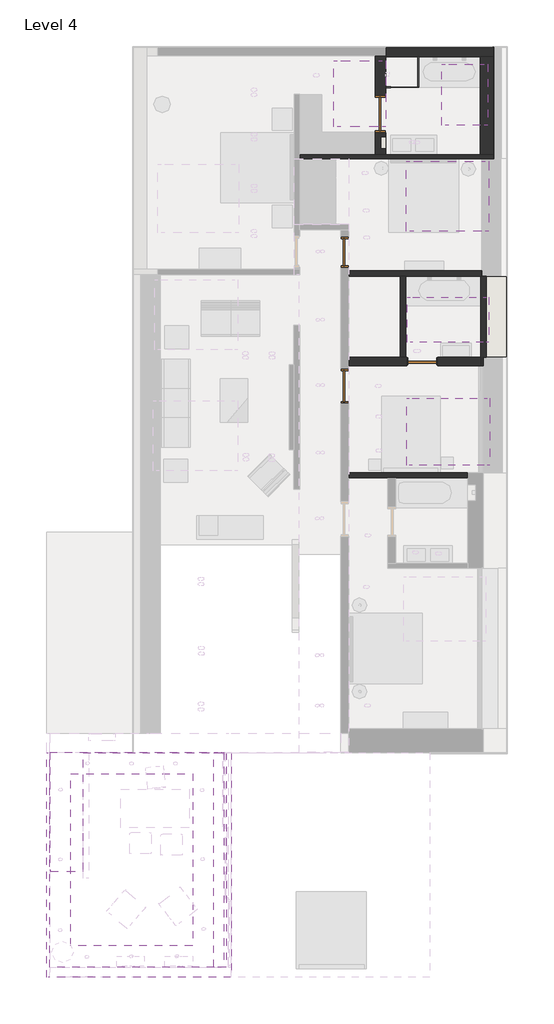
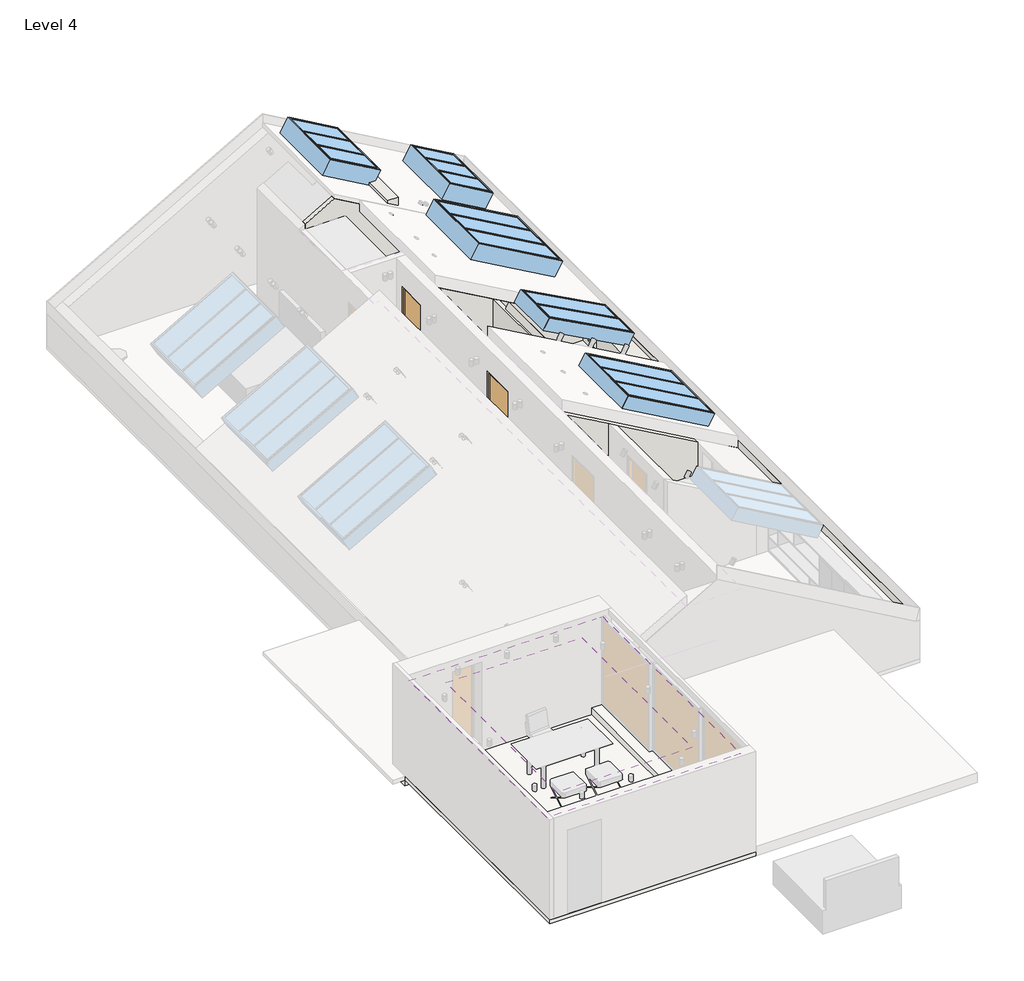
# One storey, part 2 of 5: 12 walls, 5 doors, 5 windows, 3 coverings, 2 plates, 2 slabs.
"""IFC4 building model written with IfcOpenShell, lengths in millimetres."""

from ifc_helpers import new_model, si_unit, point, frame, frame_2d, origin, place, context, project, spatial, polyline, circle_curve, trimmed, segment, composite_curve, outline, extrude, faceted_brep, transform, mapped, element, save
from ifc_brep_helpers import plane_surface, revolved_surface, advanced_brep
from components import door_02_type_3_db1270f6, door_02_type_4_94f705d0, door_03_type_1_889ccfd0, door_05_type_1_5e9864d1, door_curtain_01_door_curtain_01_92228c6f, system_panel_glazed_3_1aa751b1, system_panel_glazed_3_bbe2ff3f, window_02_standard_79e32c66, window_02_standard_d52dc3cf, window_02_standard_9c25f07f, window_02_standard_8aaaa128, window_03_standard_ac859b6b

model = new_model("IFC4")

# Units and contexts
model_context = context("Model", 3, world=origin())
ifc_project = project(units=[si_unit("LENGTHUNIT", "METRE", prefix="MILLI")], contexts=[model_context])

# Site, building, storey
site = spatial("IfcSite", under=ifc_project)
building = spatial("IfcBuilding", under=site)
storey = spatial("IfcBuildingStorey", under=building, Name="Level 4", Elevation=8080.0)

# Coverings
placement = place(None, origin())
element("IfcCovering", 1, ObjectType="Ceiling", at=placement, inside=storey, context=model_context, shape_type="SweptSolid", body=[
    extrude(outline(polyline([(-7206.3974698, 4235.5198069), (-3826.3974698, 4235.5198069), (-3826.3974698, -534.4112752), (-7206.3974698, -534.4112752), (-7206.3974698, 4235.5198069)])), frame((0.0, 0.0, 12040.0), z_axis=(0.0, 0.0, 1.0), x_axis=(1.0, 0.0, 0.0)), (0.0, 0.0, 1.0), 50.0),
])
element("IfcCovering", 2, ObjectType="Ceiling 2", at=placement, inside=storey, context=model_context, shape_type="AdvancedBrep", body=[
    advanced_brep(
    [(-7786.3974698, -1134.4112752, 12090.0), (-2966.3974698, -1134.4112752, 12090.0), (-2966.3974698, 4825.5198069, 12090.0), (-7786.3974698, 4825.5198069, 12090.0), (-7206.3974698, -534.4112752, 12090.0), (-7206.3974698, 4235.5198069, 12090.0), (-3826.3974698, 4235.5198069, 12090.0), (-3826.3974698, -534.4112752, 12090.0), (-3566.3974698, -74.4112752, 12090.0), (-3466.3974698, -74.4112752, 12090.0), (-3596.3974698, 1865.5887248, 12090.0), (-3496.3974698, 1865.5887248, 12090.0), (-3611.3974698, 3780.5887248, 12090.0), (-3511.3974698, 3780.5887248, 12090.0), (-4351.3974698, 4520.5887248, 12090.0), (-4251.3974698, 4520.5887248, 12090.0), (-5571.3974698, 4520.5887248, 12090.0), (-5471.3974698, 4520.5887248, 12090.0), (-6791.3974698, 4525.5887248, 12090.0), (-6691.3974698, 4525.5887248, 12090.0), (-7542.2776996, 3793.8700804, 12090.0), (-7442.2776996, 3793.8700804, 12090.0), (-7548.3673914, 1856.0640807, 12090.0), (-7448.3673914, 1856.0640807, 12090.0), (-7554.6725061, -107.9147133, 12090.0), (-7454.6725061, -107.9147133, 12090.0), (-6811.3974698, -851.4112752, 12090.0), (-6711.3974698, -851.4112752, 12090.0), (-5574.7222871, -834.6027258, 12090.0), (-5474.7222871, -834.6027258, 12090.0), (-4313.3777426, -832.4147053, 12090.0), (-4213.3777426, -832.4147053, 12090.0), (-2966.3974698, 4825.5198069, 11940.0), (-2966.3974698, -1134.4112752, 11940.0), (-3030.5434458, -1134.4112752, 11940.0), (-3030.5434458, 4825.5198069, 11940.0), (-7786.3974698, -1134.4112752, 11940.0), (-7786.3974698, 4825.5198069, 11940.0), (-3218.8446599, 4825.5198069, 11940.0), (-3218.8446599, -1134.4112752, 11940.0), (-7206.3974698, 4235.5198069, 11940.0), (-7206.3974698, -534.4112752, 11940.0), (-3826.3974698, -534.4112752, 11940.0), (-3826.3974698, 4235.5198069, 11940.0), (-3566.3974698, -74.4112752, 11940.0), (-3466.3974698, -74.4112752, 11940.0), (-3596.3974698, 1865.5887248, 11940.0), (-3496.3974698, 1865.5887248, 11940.0), (-3611.3974698, 3780.5887248, 11940.0), (-3511.3974698, 3780.5887248, 11940.0), (-4351.3974698, 4520.5887248, 11940.0), (-4251.3974698, 4520.5887248, 11940.0), (-5571.3974698, 4520.5887248, 11940.0), (-5471.3974698, 4520.5887248, 11940.0), (-6791.3974698, 4525.5887248, 11940.0), (-6691.3974698, 4525.5887248, 11940.0), (-7542.2776996, 3793.8700804, 11940.0), (-7442.2776996, 3793.8700804, 11940.0), (-7548.3673914, 1856.0640807, 11940.0), (-7448.3673914, 1856.0640807, 11940.0), (-7554.6725061, -107.9147133, 11940.0), (-7454.6725061, -107.9147133, 11940.0), (-6811.3974698, -851.4112752, 11940.0), (-6711.3974698, -851.4112752, 11940.0), (-5574.7222871, -834.6027258, 11940.0), (-5474.7222871, -834.6027258, 11940.0), (-4313.3777426, -832.4147053, 11940.0), (-4213.3777426, -832.4147053, 11940.0), (-3218.8446599, -1134.4112752, 12040.0), (-3030.5434458, -1134.4112752, 12040.0), (-3030.5434458, 4825.5198069, 12040.0), (-3218.8446599, 4825.5198069, 12040.0)],
    [
        (0, 1),
        (1, 2),
        (2, 3),
        (3, 0),
        (4, 5),
        (5, 6),
        (6, 7),
        (7, 4),
        (8, 9, circle_curve(frame((-3516.3974698, -74.4112752, 12090.0), z_axis=(0.0, 0.0, -1.0), x_axis=(1.0, 0.0, 0.0)), 50.0)),
        (9, 8, circle_curve(frame((-3516.3974698, -74.4112752, 12090.0), z_axis=(0.0, 0.0, -1.0), x_axis=(1.0, 0.0, 0.0)), 50.0)),
        (10, 11, circle_curve(frame((-3546.3974698, 1865.5887248, 12090.0), z_axis=(0.0, 0.0, -1.0), x_axis=(1.0, 0.0, 0.0)), 50.0)),
        (11, 10, circle_curve(frame((-3546.3974698, 1865.5887248, 12090.0), z_axis=(0.0, 0.0, -1.0), x_axis=(1.0, 0.0, 0.0)), 50.0)),
        (12, 13, circle_curve(frame((-3561.3974698, 3780.5887248, 12090.0), z_axis=(0.0, 0.0, -1.0), x_axis=(1.0, 0.0, 0.0)), 50.0)),
        (13, 12, circle_curve(frame((-3561.3974698, 3780.5887248, 12090.0), z_axis=(0.0, 0.0, -1.0), x_axis=(1.0, 0.0, 0.0)), 50.0)),
        (14, 15, circle_curve(frame((-4301.3974698, 4520.5887248, 12090.0), z_axis=(0.0, 0.0, -1.0), x_axis=(1.0, 0.0, 0.0)), 50.0)),
        (15, 14, circle_curve(frame((-4301.3974698, 4520.5887248, 12090.0), z_axis=(0.0, 0.0, -1.0), x_axis=(1.0, 0.0, 0.0)), 50.0)),
        (16, 17, circle_curve(frame((-5521.3974698, 4520.5887248, 12090.0), z_axis=(0.0, 0.0, -1.0), x_axis=(1.0, 0.0, 0.0)), 50.0)),
        (17, 16, circle_curve(frame((-5521.3974698, 4520.5887248, 12090.0), z_axis=(0.0, 0.0, -1.0), x_axis=(1.0, 0.0, 0.0)), 50.0)),
        (18, 19, circle_curve(frame((-6741.3974698, 4525.5887248, 12090.0), z_axis=(0.0, 0.0, -1.0), x_axis=(1.0, 0.0, 0.0)), 50.0)),
        (19, 18, circle_curve(frame((-6741.3974698, 4525.5887248, 12090.0), z_axis=(0.0, 0.0, -1.0), x_axis=(1.0, 0.0, 0.0)), 50.0)),
        (20, 21, circle_curve(frame((-7492.2776996, 3793.8700804, 12090.0), z_axis=(0.0, 0.0, -1.0), x_axis=(1.0, 0.0, 0.0)), 50.0)),
        (21, 20, circle_curve(frame((-7492.2776996, 3793.8700804, 12090.0), z_axis=(0.0, 0.0, -1.0), x_axis=(1.0, 0.0, 0.0)), 50.0)),
        (22, 23, circle_curve(frame((-7498.3673914, 1856.0640807, 12090.0), z_axis=(0.0, 0.0, -1.0), x_axis=(1.0, 0.0, 0.0)), 50.0)),
        (23, 22, circle_curve(frame((-7498.3673914, 1856.0640807, 12090.0), z_axis=(0.0, 0.0, -1.0), x_axis=(1.0, 0.0, 0.0)), 50.0)),
        (24, 25, circle_curve(frame((-7504.6725061, -107.9147133, 12090.0), z_axis=(0.0, 0.0, -1.0), x_axis=(1.0, 0.0, 0.0)), 50.0)),
        (25, 24, circle_curve(frame((-7504.6725061, -107.9147133, 12090.0), z_axis=(0.0, 0.0, -1.0), x_axis=(1.0, 0.0, 0.0)), 50.0)),
        (26, 27, circle_curve(frame((-6761.3974698, -851.4112752, 12090.0), z_axis=(0.0, 0.0, -1.0), x_axis=(1.0, 0.0, 0.0)), 50.0)),
        (27, 26, circle_curve(frame((-6761.3974698, -851.4112752, 12090.0), z_axis=(0.0, 0.0, -1.0), x_axis=(1.0, 0.0, 0.0)), 50.0)),
        (28, 29, circle_curve(frame((-5524.7222871, -834.6027258, 12090.0), z_axis=(0.0, 0.0, -1.0), x_axis=(1.0, 0.0, 0.0)), 50.0)),
        (29, 28, circle_curve(frame((-5524.7222871, -834.6027258, 12090.0), z_axis=(0.0, 0.0, -1.0), x_axis=(1.0, 0.0, 0.0)), 50.0)),
        (30, 31, circle_curve(frame((-4263.3777426, -832.4147053, 12090.0), z_axis=(0.0, 0.0, -1.0), x_axis=(1.0, 0.0, 0.0)), 50.0)),
        (31, 30, circle_curve(frame((-4263.3777426, -832.4147053, 12090.0), z_axis=(0.0, 0.0, -1.0), x_axis=(1.0, 0.0, 0.0)), 50.0)),
        (32, 33),
        (33, 34),
        (34, 35),
        (35, 32),
        (36, 37),
        (37, 38),
        (38, 39),
        (39, 36),
        (40, 41),
        (41, 42),
        (42, 43),
        (43, 40),
        (44, 45, circle_curve(frame((-3516.3974698, -74.4112752, 11940.0), z_axis=(0.0, 0.0, 1.0), x_axis=(1.0, 0.0, 0.0)), 50.0)),
        (45, 44, circle_curve(frame((-3516.3974698, -74.4112752, 11940.0), z_axis=(0.0, 0.0, 1.0), x_axis=(1.0, 0.0, 0.0)), 50.0)),
        (46, 47, circle_curve(frame((-3546.3974698, 1865.5887248, 11940.0), z_axis=(0.0, 0.0, 1.0), x_axis=(1.0, 0.0, 0.0)), 50.0)),
        (47, 46, circle_curve(frame((-3546.3974698, 1865.5887248, 11940.0), z_axis=(0.0, 0.0, 1.0), x_axis=(1.0, 0.0, 0.0)), 50.0)),
        (48, 49, circle_curve(frame((-3561.3974698, 3780.5887248, 11940.0), z_axis=(0.0, 0.0, 1.0), x_axis=(1.0, 0.0, 0.0)), 50.0)),
        (49, 48, circle_curve(frame((-3561.3974698, 3780.5887248, 11940.0), z_axis=(0.0, 0.0, 1.0), x_axis=(1.0, 0.0, 0.0)), 50.0)),
        (50, 51, circle_curve(frame((-4301.3974698, 4520.5887248, 11940.0), z_axis=(0.0, 0.0, 1.0), x_axis=(1.0, 0.0, 0.0)), 50.0)),
        (51, 50, circle_curve(frame((-4301.3974698, 4520.5887248, 11940.0), z_axis=(0.0, 0.0, 1.0), x_axis=(1.0, 0.0, 0.0)), 50.0)),
        (52, 53, circle_curve(frame((-5521.3974698, 4520.5887248, 11940.0), z_axis=(0.0, 0.0, 1.0), x_axis=(1.0, 0.0, 0.0)), 50.0)),
        (53, 52, circle_curve(frame((-5521.3974698, 4520.5887248, 11940.0), z_axis=(0.0, 0.0, 1.0), x_axis=(1.0, 0.0, 0.0)), 50.0)),
        (54, 55, circle_curve(frame((-6741.3974698, 4525.5887248, 11940.0), z_axis=(0.0, 0.0, 1.0), x_axis=(1.0, 0.0, 0.0)), 50.0)),
        (55, 54, circle_curve(frame((-6741.3974698, 4525.5887248, 11940.0), z_axis=(0.0, 0.0, 1.0), x_axis=(1.0, 0.0, 0.0)), 50.0)),
        (56, 57, circle_curve(frame((-7492.2776996, 3793.8700804, 11940.0), z_axis=(0.0, 0.0, 1.0), x_axis=(1.0, 0.0, 0.0)), 50.0)),
        (57, 56, circle_curve(frame((-7492.2776996, 3793.8700804, 11940.0), z_axis=(0.0, 0.0, 1.0), x_axis=(1.0, 0.0, 0.0)), 50.0)),
        (58, 59, circle_curve(frame((-7498.3673914, 1856.0640807, 11940.0), z_axis=(0.0, 0.0, 1.0), x_axis=(1.0, 0.0, 0.0)), 50.0)),
        (59, 58, circle_curve(frame((-7498.3673914, 1856.0640807, 11940.0), z_axis=(0.0, 0.0, 1.0), x_axis=(1.0, 0.0, 0.0)), 50.0)),
        (60, 61, circle_curve(frame((-7504.6725061, -107.9147133, 11940.0), z_axis=(0.0, 0.0, 1.0), x_axis=(1.0, 0.0, 0.0)), 50.0)),
        (61, 60, circle_curve(frame((-7504.6725061, -107.9147133, 11940.0), z_axis=(0.0, 0.0, 1.0), x_axis=(1.0, 0.0, 0.0)), 50.0)),
        (62, 63, circle_curve(frame((-6761.3974698, -851.4112752, 11940.0), z_axis=(0.0, 0.0, 1.0), x_axis=(1.0, 0.0, 0.0)), 50.0)),
        (63, 62, circle_curve(frame((-6761.3974698, -851.4112752, 11940.0), z_axis=(0.0, 0.0, 1.0), x_axis=(1.0, 0.0, 0.0)), 50.0)),
        (64, 65, circle_curve(frame((-5524.7222871, -834.6027258, 11940.0), z_axis=(0.0, 0.0, 1.0), x_axis=(1.0, 0.0, 0.0)), 50.0)),
        (65, 64, circle_curve(frame((-5524.7222871, -834.6027258, 11940.0), z_axis=(0.0, 0.0, 1.0), x_axis=(1.0, 0.0, 0.0)), 50.0)),
        (66, 67, circle_curve(frame((-4263.3777426, -832.4147053, 11940.0), z_axis=(0.0, 0.0, 1.0), x_axis=(1.0, 0.0, 0.0)), 50.0)),
        (67, 66, circle_curve(frame((-4263.3777426, -832.4147053, 11940.0), z_axis=(0.0, 0.0, 1.0), x_axis=(1.0, 0.0, 0.0)), 50.0)),
        (0, 36),
        (39, 68),
        (68, 69),
        (69, 34),
        (33, 1),
        (32, 2),
        (35, 70),
        (70, 71),
        (71, 38),
        (37, 3),
        (4, 41),
        (40, 5),
        (43, 6),
        (42, 7),
        (70, 69),
        (68, 71),
        (44, 8),
        (9, 45),
        (46, 10),
        (11, 47),
        (48, 12),
        (13, 49),
        (50, 14),
        (15, 51),
        (52, 16),
        (17, 53),
        (54, 18),
        (19, 55),
        (56, 20),
        (21, 57),
        (58, 22),
        (23, 59),
        (60, 24),
        (25, 61),
        (62, 26),
        (27, 63),
        (64, 28),
        (29, 65),
        (66, 30),
        (31, 67),
    ],
    [
        plane_surface(frame((-7786.3974698, -1134.4112752, 12090.0), z_axis=(0.0, 0.0, 1.0), x_axis=(0.0, -1.0, 0.0))),
        plane_surface(frame((-7786.3974698, -1134.4112752, 11940.0), z_axis=(0.0, 0.0, -1.0), x_axis=(0.0, 1.0, 0.0))),
        plane_surface(frame((-7786.3974698, -1134.4112752, 12090.0), z_axis=(0.0, -1.0, 0.0), x_axis=(0.0, 0.0, -1.0))),
        plane_surface(frame((-2966.3974698, -1134.4112752, 12090.0), z_axis=(1.0, 0.0, 0.0), x_axis=(0.0, 0.0, -1.0))),
        plane_surface(frame((-2966.3974698, 4825.5198069, 12090.0), z_axis=(0.0, 1.0, 0.0), x_axis=(0.0, 0.0, -1.0))),
        plane_surface(frame((-7786.3974698, 4825.5198069, 12090.0), z_axis=(-1.0, 0.0, 0.0), x_axis=(0.0, 0.0, -1.0))),
        plane_surface(frame((-7206.3974698, -534.4112752, 12090.0), z_axis=(1.0, 0.0, 0.0), x_axis=(0.0, 0.0, -1.0))),
        plane_surface(frame((-7206.3974698, 4235.5198069, 12090.0), z_axis=(0.0, -1.0, 0.0), x_axis=(0.0, 0.0, -1.0))),
        plane_surface(frame((-3826.3974698, 4235.5198069, 12090.0), z_axis=(-1.0, 0.0, 0.0), x_axis=(0.0, 0.0, -1.0))),
        plane_surface(frame((-3826.3974698, -534.4112752, 12090.0), z_axis=(0.0, 1.0, 0.0), x_axis=(0.0, 0.0, -1.0))),
        plane_surface(frame((-3238.8446599, 4825.5198069, 12040.0), z_axis=(0.0, 0.0, -1.0), x_axis=(-1.0, 0.0, 0.0))),
        plane_surface(frame((-3218.8446599, 4825.5198069, 12040.0), z_axis=(1.0, 0.0, 0.0), x_axis=(0.0, 0.0, -1.0))),
        plane_surface(frame((-3030.5434458, -1134.4112752, 12040.0), z_axis=(-1.0, 0.0, 0.0), x_axis=(0.0, 0.0, -1.0))),
        revolved_surface(polyline([(-3466.3974698, -74.4112752, 12090.0), (-3466.3974698, -74.4112752, 11940.0)]), (-3516.3974698, -74.4112752, 11940.0), (0.0, 0.0, 1.0)),
        revolved_surface(polyline([(-3496.3974698, 1865.5887248, 12090.0), (-3496.3974698, 1865.5887248, 11940.0)]), (-3546.3974698, 1865.5887248, 11940.0), (0.0, 0.0, 1.0)),
        revolved_surface(polyline([(-3511.3974698, 3780.5887248, 12090.0), (-3511.3974698, 3780.5887248, 11940.0)]), (-3561.3974698, 3780.5887248, 11940.0), (0.0, 0.0, 1.0)),
        revolved_surface(polyline([(-4251.3974698, 4520.5887248, 12090.0), (-4251.3974698, 4520.5887248, 11940.0)]), (-4301.3974698, 4520.5887248, 11940.0), (0.0, 0.0, 1.0)),
        revolved_surface(polyline([(-5471.3974698, 4520.5887248, 12090.0), (-5471.3974698, 4520.5887248, 11940.0)]), (-5521.3974698, 4520.5887248, 11940.0), (0.0, 0.0, 1.0)),
        revolved_surface(polyline([(-6691.3974698, 4525.5887248, 12090.0), (-6691.3974698, 4525.5887248, 11940.0)]), (-6741.3974698, 4525.5887248, 11940.0), (0.0, 0.0, 1.0)),
        revolved_surface(polyline([(-7442.2776996, 3793.8700804, 12090.0), (-7442.2776996, 3793.8700804, 11940.0)]), (-7492.2776996, 3793.8700804, 11940.0), (0.0, 0.0, 1.0)),
        revolved_surface(polyline([(-7448.3673914, 1856.0640807, 12090.0), (-7448.3673914, 1856.0640807, 11940.0)]), (-7498.3673914, 1856.0640807, 11940.0), (0.0, 0.0, 1.0)),
        revolved_surface(polyline([(-7454.6725061, -107.9147133, 12090.0), (-7454.6725061, -107.9147133, 11940.0)]), (-7504.6725061, -107.9147133, 11940.0), (0.0, 0.0, 1.0)),
        revolved_surface(polyline([(-6711.3974698, -851.4112752, 12090.0), (-6711.3974698, -851.4112752, 11940.0)]), (-6761.3974698, -851.4112752, 11940.0), (0.0, 0.0, 1.0)),
        revolved_surface(polyline([(-5474.7222871, -834.6027258, 12090.0), (-5474.7222871, -834.6027258, 11940.0)]), (-5524.7222871, -834.6027258, 11940.0), (0.0, 0.0, 1.0)),
        revolved_surface(polyline([(-4213.3777426, -832.4147053, 12090.0), (-4213.3777426, -832.4147053, 11940.0)]), (-4263.3777426, -832.4147053, 11940.0), (0.0, 0.0, 1.0)),
    ],
    [
        (0, [[1, 2, 3, 4], [5, 6, 7, 8], [9, 10], [11, 12], [13, 14], [15, 16], [17, 18], [19, 20], [21, 22], [23, 24], [25, 26], [27, 28], [29, 30], [31, 32]]),
        (1, [[33, 34, 35, 36]]),
        (1, [[37, 38, 39, 40], [41, 42, 43, 44], [45, 46], [47, 48], [49, 50], [51, 52], [53, 54], [55, 56], [57, 58], [59, 60], [61, 62], [63, 64], [65, 66], [67, 68]]),
        (2, [[-1, 69, -40, 70, 71, 72, -34, 73]]),
        (3, [[-2, -73, -33, 74]]),
        (4, [[-3, -74, -36, 75, 76, 77, -38, 78]]),
        (5, [[-4, -78, -37, -69]]),
        (6, [[-5, 79, -41, 80]]),
        (7, [[-6, -80, -44, 81]]),
        (8, [[-7, -81, -43, 82]]),
        (9, [[-8, -82, -42, -79]]),
        (10, [[83, -71, 84, -76]]),
        (11, [[-84, -70, -39, -77]]),
        (12, [[-83, -75, -35, -72]]),
        (13, [[-45, 85, -10, 86]]),
        (13, [[-46, -86, -9, -85]]),
        (14, [[-47, 87, -12, 88]]),
        (14, [[-48, -88, -11, -87]]),
        (15, [[-49, 89, -14, 90]]),
        (15, [[-50, -90, -13, -89]]),
        (16, [[-51, 91, -16, 92]]),
        (16, [[-52, -92, -15, -91]]),
        (17, [[-53, 93, -18, 94]]),
        (17, [[-54, -94, -17, -93]]),
        (18, [[-55, 95, -20, 96]]),
        (18, [[-56, -96, -19, -95]]),
        (19, [[-57, 97, -22, 98]]),
        (19, [[-58, -98, -21, -97]]),
        (20, [[-59, 99, -24, 100]]),
        (20, [[-60, -100, -23, -99]]),
        (21, [[-61, 101, -26, 102]]),
        (21, [[-62, -102, -25, -101]]),
        (22, [[-63, 103, -28, 104]]),
        (22, [[-64, -104, -27, -103]]),
        (23, [[-65, 105, -30, 106]]),
        (23, [[-66, -106, -29, -105]]),
        (24, [[-67, 107, -32, 108]]),
        (24, [[-68, -108, -31, -107]]),
    ],
),
])
element("IfcCovering", 3, ObjectType="Ceiling 2", at=placement, inside=storey, context=model_context, shape_type="SweptSolid", body=[
    extrude(outline(polyline([(-7500.5019919, 10588.8264883), (-5469.2035042, 10588.8264883), (-5469.2035042, 5365.5198069), (-7580.5019919, 5365.5198069), (-7580.5019919, 8595.5198069), (-7500.5019919, 8595.5198069), (-7500.5019919, 10588.8264883)]), holes=[composite_curve([segment(trimmed(circle_curve(frame_2d((-6840.5019919, 9595.5198069)), 50.0), [point((-6890.5019919, 9595.5198069))], [point((-6790.5019919, 9595.5198069))], True, "CARTESIAN"), True, "CONTINUOUS"), segment(trimmed(circle_curve(frame_2d((-6840.5019919, 9595.5198069)), 50.0), [point((-6790.5019919, 9595.5198069))], [point((-6890.5019919, 9595.5198069))], True, "CARTESIAN"), True, "CONTINUOUS")], self_intersect=False), composite_curve([segment(trimmed(circle_curve(frame_2d((-6700.5019919, 9595.5198069)), 50.0), [point((-6750.5019919, 9595.5198069))], [point((-6650.5019919, 9595.5198069))], True, "CARTESIAN"), True, "CONTINUOUS"), segment(trimmed(circle_curve(frame_2d((-6700.5019919, 9595.5198069)), 50.0), [point((-6650.5019919, 9595.5198069))], [point((-6750.5019919, 9595.5198069))], True, "CARTESIAN"), True, "CONTINUOUS")], self_intersect=False), composite_curve([segment(trimmed(circle_curve(frame_2d((-6860.5019919, 7665.5198069)), 50.0), [point((-6910.5019919, 7665.5198069))], [point((-6810.5019919, 7665.5198069))], True, "CARTESIAN"), True, "CONTINUOUS"), segment(trimmed(circle_curve(frame_2d((-6860.5019919, 7665.5198069)), 50.0), [point((-6810.5019919, 7665.5198069))], [point((-6910.5019919, 7665.5198069))], True, "CARTESIAN"), True, "CONTINUOUS")], self_intersect=False), composite_curve([segment(trimmed(circle_curve(frame_2d((-6720.5019919, 7665.5198069)), 50.0), [point((-6770.5019919, 7665.5198069))], [point((-6670.5019919, 7665.5198069))], True, "CARTESIAN"), True, "CONTINUOUS"), segment(trimmed(circle_curve(frame_2d((-6720.5019919, 7665.5198069)), 50.0), [point((-6670.5019919, 7665.5198069))], [point((-6770.5019919, 7665.5198069))], True, "CARTESIAN"), True, "CONTINUOUS")], self_intersect=False), composite_curve([segment(trimmed(circle_curve(frame_2d((-6948.4263983, 5947.8221885)), 50.0), [point((-6998.4263983, 5947.8221885))], [point((-6898.4263983, 5947.8221885))], True, "CARTESIAN"), True, "CONTINUOUS"), segment(trimmed(circle_curve(frame_2d((-6948.4263983, 5947.8221885)), 50.0), [point((-6898.4263983, 5947.8221885))], [point((-6998.4263983, 5947.8221885))], True, "CARTESIAN"), True, "CONTINUOUS")], self_intersect=False), composite_curve([segment(trimmed(circle_curve(frame_2d((-6808.4263983, 5947.8221885)), 50.0), [point((-6858.4263983, 5947.8221885))], [point((-6758.4263983, 5947.8221885))], True, "CARTESIAN"), True, "CONTINUOUS"), segment(trimmed(circle_curve(frame_2d((-6808.4263983, 5947.8221885)), 50.0), [point((-6758.4263983, 5947.8221885))], [point((-6858.4263983, 5947.8221885))], True, "CARTESIAN"), True, "CONTINUOUS")], self_intersect=False)]), frame((0.0, 0.0, 8765.0), z_axis=(0.0, 0.0, 1.0), x_axis=(1.0, 0.0, 0.0)), (0.0, 0.0, 1.0), 150.0),
])

# Doors
door_02_type_3_shape = door_02_type_3_db1270f6(model_context)
element("IfcDoor", 4, ObjectType="Door_02 : Type 3", at=placement, inside=storey, context=model_context, shape_type="MappedRepresentation", body=[
    mapped(door_02_type_3_shape, transform((396.4168364, 18718.0978406, 8080.0), x_axis=(0.0, -1.0, 0.0), y_axis=(1.0, 0.0, 0.0), z_axis=(0.0, 0.0, 1.0))),
])
door_02_type_4_shape = door_02_type_4_94f705d0(model_context)
element("IfcDoor", 5, ObjectType="Door_02 : Type 4", at=placement, inside=storey, context=model_context, shape_type="MappedRepresentation", body=[
    mapped(door_02_type_4_shape, transform((396.4168364, 14998.0978406, 8080.0), x_axis=(0.0, 1.0, 0.0), y_axis=(-1.0, 0.0, 0.0), z_axis=(0.0, 0.0, 1.0))),
])
door_03_type_1_shape = door_03_type_1_889ccfd0(model_context)
element("IfcDoor", 6, ObjectType="Door_03 : Type 1", at=placement, inside=storey, context=model_context, shape_type="MappedRepresentation", body=[
    mapped(door_03_type_1_shape, transform((2552.3010582, 15683.0978406, 8080.0), x_axis=(-1.0, 0.0, 0.0), y_axis=(0.0, -1.0, 0.0), z_axis=(0.0, 0.0, 1.0))),
])
door_05_type_1_shape = door_05_type_1_5e9864d1(model_context)
element("IfcDoor", 7, ObjectType="Door_05 : Type 1", at=placement, inside=storey, context=model_context, shape_type="MappedRepresentation", body=[
    mapped(door_05_type_1_shape, transform((1392.3010582, 22557.5059342, 8080.0), x_axis=(0.0, 1.0, 0.0), y_axis=(-1.0, 0.0, 0.0), z_axis=(0.0, 0.0, 1.0))),
])
door_curtain_01_door_curtain_01_shape = door_curtain_01_door_curtain_01_92228c6f(model_context)
element("IfcDoor", 8, ObjectType="Door_Curtain_01 : Door_Curtain_01", at=placement, inside=storey, context=model_context, shape_type="MappedRepresentation", body=[
    mapped(door_curtain_01_door_curtain_01_shape, transform((2055.6140452, 23297.5059342, 8080.0), x_axis=(-1.0, 0.0, 0.0), y_axis=(0.0, -1.0, 0.0), z_axis=(0.0, 0.0, 1.0))),
])

# Plates
system_panel_glazed_3_shape = system_panel_glazed_3_1aa751b1(model_context)
element("IfcPlate", 9, ObjectType="System Panel : Glazed 3", at=placement, inside=storey, context=model_context, shape_type="MappedRepresentation", body=[
    mapped(system_panel_glazed_3_shape, transform((2437.4890452, 23724.0518874, 8690.4670848), x_axis=(0.0, 1.0, 0.0), y_axis=(-1.0, 0.0, 0.0), z_axis=(0.0, 0.0, 1.0))),
])
system_panel_glazed_3_2_shape = system_panel_glazed_3_bbe2ff3f(model_context)
element("IfcPlate", 10, ObjectType="System Panel : Glazed 3", at=placement, inside=storey, context=model_context, shape_type="MappedRepresentation", body=[
    mapped(system_panel_glazed_3_2_shape, transform((1603.0200517, 23297.5059342, 8080.0), x_axis=(-1.0, 0.0, 0.0), y_axis=(0.0, -1.0, 0.0), z_axis=(0.0, 0.0, 1.0))),
])

# Slabs
element("IfcSlab", 11, ObjectType="Floor_100", at=placement, inside=storey, context=model_context, shape_type="Brep", body=[
    faceted_brep([(-7880.3974698, -1412.4112752, 9350.0), (-7880.3974698, 4825.5198069, 9350.0), (-7786.3974698, 4825.5198069, 9350.0), (-7786.3974698, 1565.5887248, 9350.0), (-7780.5019919, 1565.5887248, 9350.0), (-7780.5019919, 1530.5887248, 9350.0), (-6858.0019919, 1530.5887248, 9350.0), (-6858.0019919, 4825.5198069, 9350.0), (-2751.3974698, 4825.5198069, 9350.0), (-2751.3974698, -1412.4112752, 9350.0), (-7880.3974698, 4825.5198069, 9450.0), (-7880.3974698, -1412.4112752, 9450.0), (-7786.3974698, -1412.4112752, 9450.0), (-2751.3974698, -1412.4112752, 9450.0), (-2751.3974698, 4825.5198069, 9450.0), (-6858.0019919, 4825.5198069, 9450.0), (-6858.0019919, 1565.5887248, 9450.0), (-6858.0019919, 1530.5887248, 9450.0), (-7780.5019919, 1530.5887248, 9450.0), (-7780.5019919, 1565.5887248, 9450.0), (-7786.3974698, 1565.5887248, 9450.0), (-7786.3974698, 4825.5198069, 9450.0)], [[[0, 1, 2, 3, 4, 5, 6, 7, 8, 9]], [[10, 11, 12, 13, 14, 15, 16, 17, 18, 19, 20, 21]], [[1, 0, 11, 10]], [[2, 1, 10, 21]], [[9, 8, 14, 13]], [[0, 9, 13, 12, 11]], [[3, 2, 21, 20]], [[3, 20, 19, 4]], [[6, 17, 16, 15, 7]], [[8, 7, 15, 14]], [[18, 5, 4, 19]], [[17, 6, 5, 18]]]),
])
element("IfcSlab", 12, ObjectType="Floor_176", at=placement, inside=storey, context=model_context, shape_type="SweptSolid", body=[
    extrude(outline(polyline([(-2891.3974698, 4825.5198069), (-2891.3974698, -1134.4112752), (-3239.3881435, -1134.4112752), (-3239.3881435, 4825.5198069), (-2891.3974698, 4825.5198069)])), frame((0.0, 0.0, 9450.4391419), z_axis=(0.0, 0.0, 1.0), x_axis=(1.0, 0.0, 0.0)), (0.0, 0.0, 1.0), 176.0),
])

# Walls
element("IfcWall", 13, ObjectType="Generic - Ext 19mm", at=placement, inside=storey, context=model_context, shape_type="Brep", body=[
    faceted_brep([(4916.3010582, 4817.0467998, 8080.0), (4916.3010582, 24429.5978406, 8080.0), (4916.3010582, 24429.5978406, 9101.8073213), (4916.3010582, 4817.0467998, 9101.8073213), (4897.3010582, 4817.0467998, 8080.0), (4897.3010582, 4817.0467998, 9101.8073213), (4897.3010582, 24410.5978406, 9101.8073213), (4897.3010582, 24429.5978406, 9101.8073213), (4897.3010582, 24429.5978406, 8080.0), (4897.3010582, 24410.5978406, 8080.0)], [[[0, 1, 2, 3]], [[4, 5, 6, 7, 8, 9]], [[1, 0, 4, 9, 8]], [[3, 2, 7, 6, 5]], [[0, 3, 5, 4]], [[2, 1, 8, 7]]]),
])
element("IfcWall", 14, ObjectType="Generic - Ext 223mm", at=placement, inside=storey, context=model_context, shape_type="Brep", body=[
    faceted_brep([(4674.3010582, 15570.5978406, 8080.0), (4674.3010582, 12600.5978406, 8080.0), (4674.3010582, 12600.5978406, 9038.4953268), (4674.3010582, 15570.5978406, 9038.4953268), (4897.3010582, 15570.5978406, 8080.0), (4897.3010582, 15570.5978406, 8911.8136953), (4897.3010582, 12600.5978406, 8911.8136953), (4897.3010582, 12600.5978406, 8906.8136953), (4897.3010582, 12600.5978406, 8080.0)], [[[0, 1, 2, 3]], [[4, 5, 6, 7, 8]], [[1, 0, 4, 8]], [[2, 1, 8, 7, 6]], [[0, 3, 5, 4]], [[3, 2, 6, 5]]]),
])
element("IfcWall", 15, ObjectType="Generic - Ext 260mm", at=placement, inside=storey, context=model_context, shape_type="Brep", body=[
    faceted_brep([(1532.3010582, 24150.5978406, 8080.0), (4157.3010582, 24150.5978406, 8080.0), (4897.3010582, 24150.5978406, 8080.0), (4897.3010582, 24150.5978406, 9077.091784), (4157.3010582, 24150.5978406, 9500.89378), (1532.3010582, 24150.5978406, 11004.2454548), (1532.3010582, 24410.5978406, 8080.0), (1532.3010582, 24410.5978406, 11004.2454548), (4897.3010582, 24410.5978406, 9077.091784), (4897.3010582, 24410.5978406, 8080.0), (1532.3010582, 24170.5978406, 8080.0), (1532.3010582, 24170.5978406, 11004.2454548)], [[[0, 1, 2, 3, 4, 5]], [[6, 7, 8, 9]], [[3, 2, 9, 8]], [[2, 1, 0, 10, 6, 9]], [[0, 5, 11, 7, 6, 10]], [[5, 4, 3, 8, 7, 11]]]),
])
element("IfcWall", 16, ObjectType="Generic - Ext 260mm", at=placement, inside=storey, context=model_context, shape_type="Brep", body=[
    faceted_brep([(4637.3010582, 21310.5978406, 8080.0), (4637.3010582, 18200.5978406, 8080.0), (4637.3010582, 18050.5978406, 8080.0), (4637.3010582, 18050.5978406, 9034.5142522), (4637.3010582, 18200.5978406, 9034.5142522), (4637.3010582, 21310.5978406, 9034.5142522), (4897.3010582, 21310.5978406, 8080.0), (4897.3010582, 21310.5978406, 8886.8136953), (4897.3010582, 18050.5978406, 8886.8136953), (4897.3010582, 18050.5978406, 8080.0)], [[[0, 1, 2, 3, 4, 5]], [[6, 7, 8, 9]], [[2, 1, 0, 6, 9]], [[3, 2, 9, 8]], [[5, 4, 3, 8, 7]], [[0, 5, 7, 6]]]),
])
element("IfcWall", 17, ObjectType="Generic - Ext 280mm", at=placement, inside=storey, context=model_context, shape_type="Brep", body=[
    faceted_brep([(1252.3010582, 21420.5978406, 11344.8131023), (1252.3010582, 24170.5978406, 11344.8131023), (1252.3010582, 24170.5978406, 8080.0), (1252.3010582, 23077.5059342, 8080.0), (1252.3010582, 23077.5059342, 10460.0), (1252.3010582, 22037.5059342, 10460.0), (1252.3010582, 22037.5059342, 8080.0), (1252.3010582, 21420.5978406, 8080.0), (1532.3010582, 24170.5978406, 11344.8131023), (1532.3010582, 21420.5978406, 11344.8131023), (1532.3010582, 21420.5978406, 8080.0), (1532.3010582, 22037.5059342, 8080.0), (1532.3010582, 22037.5059342, 10460.0), (1532.3010582, 23077.5059342, 10460.0), (1532.3010582, 23077.5059342, 8080.0), (1532.3010582, 24170.5978406, 8080.0), (1532.3010582, 24170.5978406, 11004.2454548), (1532.3010582, 21920.5978406, 9931.2510975), (1532.3010582, 21920.5978406, 9591.2510975), (1532.3010582, 21591.1509064, 9591.2510975), (1532.3010582, 21591.1509064, 9931.2510975), (1532.3010582, 21920.5978406, 9466.2510975), (1532.3010582, 21920.5978406, 9126.2510975), (1532.3010582, 21591.1509064, 9126.2510975), (1532.3010582, 21591.1509064, 9466.2510975), (1401.1523625, 21920.5978406, 9931.2510975), (1401.1523625, 21591.1509064, 9931.2510975), (1401.1523625, 21591.1509064, 9591.2510975), (1401.1523625, 21920.5978406, 9591.2510975), (1401.1523625, 21920.5978406, 9466.2510975), (1401.1523625, 21591.1509064, 9466.2510975), (1401.1523625, 21591.1509064, 9126.2510975), (1401.1523625, 21920.5978406, 9126.2510975)], [[[0, 1, 2, 3, 4, 5, 6, 7]], [[8, 9, 10, 11, 12, 13, 14, 15, 16], [17, 18, 19, 20], [21, 22, 23, 24]], [[2, 15, 14, 3]], [[10, 7, 6, 11]], [[1, 0, 9, 8]], [[2, 1, 8, 16, 15]], [[0, 7, 10, 9]], [[25, 26, 27, 28]], [[25, 28, 18, 17]], [[28, 27, 19, 18]], [[27, 26, 20, 19]], [[26, 25, 17, 20]], [[29, 30, 31, 32]], [[29, 32, 22, 21]], [[32, 31, 23, 22]], [[31, 30, 24, 23]], [[30, 29, 21, 24]], [[13, 4, 3, 14]], [[4, 13, 12, 5]], [[5, 12, 11, 6]]]),
])
element("IfcWall", 18, ObjectType="Generic - Ext 720mm", at=placement, inside=storey, context=model_context, shape_type="Brep", body=[
    faceted_brep([(4177.3010582, 18050.5978406, 8080.0), (4177.3010582, 15795.5978406, 8080.0), (4177.3010582, 15570.5978406, 8080.0), (4177.3010582, 15570.5978406, 9320.8306221), (4177.3010582, 15795.5978406, 9320.8306221), (4177.3010582, 15795.5978406, 9359.4937522), (4177.3010582, 18050.5978406, 9359.4937522), (4177.3010582, 17470.5978406, 9168.3195611), (4177.3010582, 17470.5978406, 8812.9019777), (4177.3010582, 17825.5217754, 8812.9019777), (4177.3010582, 17825.5217754, 9168.3195611), (4897.3010582, 15570.5978406, 8080.0), (4897.3010582, 18050.5978406, 8080.0), (4897.3010582, 18050.5978406, 8886.8136953), (4897.3010582, 18050.5978406, 8971.8136953), (4897.3010582, 15795.5978406, 8971.8136953), (4897.3010582, 15795.5978406, 8911.8136953), (4897.3010582, 15570.5978406, 8911.8136953), (4637.3010582, 18050.5978406, 8080.0), (4674.3010582, 15570.5978406, 8080.0), (4674.3010582, 15570.5978406, 9038.4953268), (4420.344134, 17470.5978406, 9168.3195611), (4420.344134, 17825.5217754, 9168.3195611), (4420.344134, 17825.5217754, 8812.9019777), (4420.344134, 17470.5978406, 8812.9019777)], [[[0, 1, 2, 3, 4, 5, 6], [7, 8, 9, 10]], [[11, 12, 13, 14, 15, 16, 17]], [[2, 1, 0, 18, 12, 11, 19]], [[0, 6, 14, 13, 12, 18]], [[3, 2, 19, 11, 17, 20]], [[6, 5, 15, 14]], [[5, 4, 16, 15]], [[4, 3, 20, 17, 16]], [[21, 22, 23, 24]], [[21, 24, 8, 7]], [[24, 23, 9, 8]], [[23, 22, 10, 9]], [[22, 21, 7, 10]]]),
])
element("IfcWall", 19, ObjectType="Generic - Ext 740mm", at=placement, inside=storey, context=model_context, shape_type="Brep", body=[
    faceted_brep([(4157.3010582, 24150.5978406, 8080.0), (4157.3010582, 21420.5978406, 8080.0), (4157.3010582, 21420.5978406, 9500.89378), (4157.3010582, 24150.5978406, 9500.89378), (4157.3010582, 23563.8589419, 9262.8289827), (4157.3010582, 23563.8589419, 8805.0873319), (4157.3010582, 23901.7403124, 8805.0873319), (4157.3010582, 23901.7403124, 9262.8289827), (4897.3010582, 21420.5978406, 8080.0), (4897.3010582, 24150.5978406, 8080.0), (4897.3010582, 24150.5978406, 9077.091784), (4897.3010582, 21420.5978406, 9077.091784), (4351.3687518, 23563.8589419, 9262.8289827), (4351.3687518, 23901.7403124, 9262.8289827), (4351.3687518, 23901.7403124, 8805.0873319), (4351.3687518, 23563.8589419, 8805.0873319)], [[[0, 1, 2, 3], [4, 5, 6, 7]], [[8, 9, 10, 11]], [[1, 0, 9, 8]], [[0, 3, 10, 9]], [[2, 1, 8, 11]], [[3, 2, 11, 10]], [[12, 13, 14, 15]], [[12, 15, 5, 4]], [[15, 14, 6, 5]], [[14, 13, 7, 6]], [[13, 12, 4, 7]]]),
])
element("IfcWall", 20, ObjectType="Generic - Int 110mm", at=placement, inside=storey, context=model_context, shape_type="Brep", body=[
    faceted_brep([(-852.6989418, 21310.5978406, 8080.0), (4637.3010582, 21310.5978406, 8080.0), (4897.3010582, 21310.5978406, 8080.0), (4897.3010582, 21310.5978406, 8886.8136953), (4897.3010582, 21310.5978406, 9077.091784), (-122.6989418, 21310.5978406, 11952.0728917), (-122.6989418, 21310.5978406, 11952.3566315), (-852.6989418, 21310.5978406, 11534.2816895), (-852.6989418, 21310.5978406, 11405.0), (-852.6989418, 21420.5978406, 8080.0), (-852.6989418, 21420.5978406, 11534.2816895), (-122.6989418, 21420.5978406, 11952.3566315), (-122.6989418, 21420.5978406, 11952.0728917), (4157.3010582, 21420.5978406, 9500.89378), (4897.3010582, 21420.5978406, 9077.091784), (4897.3010582, 21420.5978406, 8080.0), (4157.3010582, 21420.5978406, 8080.0), (1532.3010582, 21420.5978406, 8080.0), (1252.3010582, 21420.5978406, 8080.0)], [[[0, 1, 2, 3, 4, 5, 6, 7, 8]], [[9, 10, 11, 12, 13, 14, 15, 16, 17, 18]], [[0, 8, 7, 10, 9]], [[2, 1, 0, 9, 18, 17, 16, 15]], [[11, 6, 5, 12]], [[5, 4, 14, 13, 12]], [[7, 6, 11, 10]], [[4, 3, 2, 15, 14]]]),
])
element("IfcWall", 21, ObjectType="Generic - Int 140mm", at=placement, inside=storey, context=model_context, shape_type="Brep", body=[
    faceted_brep([(3817.3010582, 12600.5978406, 8080.0), (506.4168364, 12600.5978406, 8080.0), (506.4168364, 12600.5978406, 11411.3298377), (3817.3010582, 12600.5978406, 9522.8348193), (3817.3010582, 12460.5978406, 8080.0), (3817.3010582, 12460.5978406, 9522.8348193), (1812.3010582, 12460.5978406, 10666.4666283), (1592.3010582, 12460.5978406, 10791.9524128), (506.4168364, 12460.5978406, 11411.3298377), (506.4168364, 12460.5978406, 8080.0), (1592.3010582, 12460.5978406, 8080.0), (1812.3010582, 12460.5978406, 8080.0)], [[[0, 1, 2, 3]], [[4, 5, 6, 7, 8, 9, 10, 11]], [[1, 0, 4, 11, 10, 9]], [[2, 1, 9, 8]], [[0, 3, 5, 4]], [[3, 2, 8, 7, 6, 5]]]),
])
element("IfcWall", 22, ObjectType="Generic - Int 150mm", at=placement, inside=storey, context=model_context, shape_type="Brep", body=[
    faceted_brep([(506.4168364, 18050.5978406, 8080.0), (1947.3010582, 18050.5978406, 8080.0), (2097.3010582, 18050.5978406, 8080.0), (4177.3010582, 18050.5978406, 8080.0), (4637.3010582, 18050.5978406, 8080.0), (4637.3010582, 18050.5978406, 9034.5142522), (506.4168364, 18050.5978406, 11381.1830985), (506.4168364, 18200.5978406, 8080.0), (506.4168364, 18200.5978406, 11381.1830985), (4637.3010582, 18200.5978406, 9034.5142522), (4637.3010582, 18200.5978406, 8080.0)], [[[0, 1, 2, 3, 4, 5, 6]], [[7, 8, 9, 10]], [[5, 4, 10, 9]], [[4, 3, 2, 1, 0, 7, 10]], [[0, 6, 8, 7]], [[6, 5, 9, 8]]]),
])
element("IfcWall", 23, ObjectType="Generic - Int 150mm", at=placement, inside=storey, context=model_context, shape_type="Brep", body=[
    faceted_brep([(1947.3010582, 18050.5978406, 8080.0), (1947.3010582, 15795.5978406, 8080.0), (1947.3010582, 15795.5978406, 10560.2250395), (1947.3010582, 18050.5978406, 10560.2250395), (2097.3010582, 15795.5978406, 8080.0), (2097.3010582, 18050.5978406, 8080.0), (2097.3010582, 18050.5978406, 10479.458361), (2097.3010582, 17635.8490189, 10479.458361), (2097.3010582, 17635.8490189, 10670.4026114), (2097.3010582, 15795.5978406, 10670.4026114), (2092.1119006, 17635.8490189, 10670.4026114), (2092.1119006, 15795.5978406, 10670.4026114), (2013.573514, 15795.5978406, 10524.5409986), (2013.573514, 17635.8490189, 10524.5409986)], [[[0, 1, 2, 3]], [[4, 5, 6, 7, 8, 9]], [[1, 0, 5, 4]], [[9, 8, 10, 11]], [[5, 0, 3, 6]], [[1, 4, 9, 11, 12, 2]], [[12, 13, 7, 6, 3, 2]], [[13, 12, 11, 10]], [[7, 13, 10, 8]]]),
])
element("IfcWall", 24, ObjectType="Generic - Int 225mm", at=placement, inside=storey, context=model_context, shape_type="Brep", body=[
    faceted_brep([(506.4168364, 15795.5978406, 8080.0), (506.4168364, 15795.5978406, 11406.1830985), (4177.3010582, 15795.5978406, 9320.8306221), (4177.3010582, 15795.5978406, 8080.0), (2982.3010582, 15795.5978406, 8080.0), (2982.3010582, 15795.5978406, 9956.0), (2122.3010582, 15795.5978406, 10430.0), (2122.3010582, 15795.5978406, 8080.0), (2097.3010582, 15795.5978406, 8080.0), (1947.3010582, 15795.5978406, 8080.0), (506.4168364, 15570.5978406, 11406.1830985), (506.4168364, 15570.5978406, 8080.0), (2122.3010582, 15570.5978406, 8080.0), (2122.3010582, 15570.5978406, 10430.0), (2982.3010582, 15570.5978406, 9956.0), (2982.3010582, 15570.5978406, 8080.0), (4177.3010582, 15570.5978406, 8080.0), (4177.3010582, 15570.5978406, 9320.8306221)], [[[0, 1, 2, 3, 4, 5, 6, 7, 8, 9]], [[10, 11, 12, 13, 14, 15, 16, 17]], [[3, 16, 15, 4]], [[11, 0, 9, 8, 7, 12]], [[1, 0, 11, 10]], [[16, 3, 2, 17]], [[17, 2, 1, 10]], [[6, 13, 12, 7]], [[14, 5, 4, 15]], [[5, 14, 13, 6]]]),
])

# Windows
window_02_standard_shape = window_02_standard_79e32c66(model_context)
element("IfcWindow", 25, ObjectType="Window_02 : Standard", at=placement, inside=storey, context=model_context, shape_type="MappedRepresentation", body=[
    mapped(window_02_standard_shape, transform((3631.5742574, 23095.4757913, 9917.2188701), x_axis=(0.0, -1.0, 0.0), y_axis=(0.8677654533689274, 0.0, -0.49697396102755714), z_axis=(0.49697396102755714, 0.0, 0.8677654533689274))),
])
window_02_standard_2_shape = window_02_standard_d52dc3cf(model_context)
element("IfcWindow", 26, ObjectType="Window_02 : Standard", at=placement, inside=storey, context=model_context, shape_type="MappedRepresentation", body=[
    mapped(window_02_standard_2_shape, transform((714.6602207, 23120.5772713, 11587.7512901), x_axis=(0.0, -1.0, 0.0), y_axis=(0.8677654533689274, 0.0, -0.49697396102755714), z_axis=(0.49697396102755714, 0.0, 0.8677654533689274))),
])
window_02_standard_3_shape = window_02_standard_9c25f07f(model_context)
element("IfcWindow", 27, ObjectType="Window_02 : Standard", at=placement, inside=storey, context=model_context, shape_type="MappedRepresentation", body=[
    mapped(window_02_standard_3_shape, transform((3155.8590411, 20271.430742, 10183.1652693), x_axis=(0.0, -1.0, 0.0), y_axis=(0.869494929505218, 0.0, -0.49394186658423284), z_axis=(0.49394186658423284, 0.0, 0.869494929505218))),
])
window_02_standard_4_shape = window_02_standard_8aaaa128(model_context)
element("IfcWindow", 28, ObjectType="Window_02 : Standard", at=placement, inside=storey, context=model_context, shape_type="MappedRepresentation", body=[
    mapped(window_02_standard_4_shape, transform((3195.3219849, 13730.6037976, 10185.7471971), x_axis=(0.0, -1.0, 0.0), y_axis=(0.869494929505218, 0.0, -0.49394186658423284), z_axis=(0.49394186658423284, 0.0, 0.869494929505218))),
])
window_03_standard_shape = window_03_standard_ac859b6b(model_context)
element("IfcWindow", 29, ObjectType="Window_03 : Standard", at=placement, inside=storey, context=model_context, shape_type="MappedRepresentation", body=[
    mapped(window_03_standard_shape, transform((3194.4811446, 16844.9083545, 10191.9323489), x_axis=(0.0, 1.0, 0.0), y_axis=(-0.8804773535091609, 0.0, 0.47408820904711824), z_axis=(0.47408820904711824, 0.0, 0.8804773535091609))),
])

save(model, "model.ifc")
